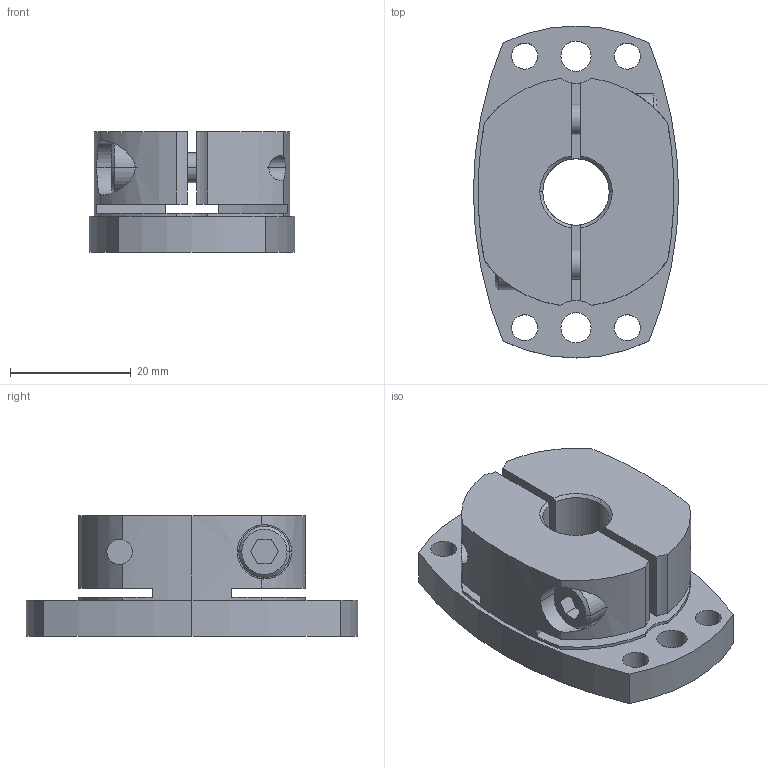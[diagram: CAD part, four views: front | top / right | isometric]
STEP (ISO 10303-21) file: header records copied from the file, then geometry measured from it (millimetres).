
FILE_DESCRIPTION((''),'2;1');
FILE_NAME('SHDB-55B-11.stp','2026-01-28T07:41:06',(''),(''),'AutoCAD STEP 2000i','AutoCAD 2000i',', , ');
FILE_SCHEMA(('CONFIG_CONTROL_DESIGN'));
Length unit declared in the file: millimetre
Products named in the file (2): SHDB-55B-10; 忣兜1
Assembly tree (1 placements, depth 2):
  SHDB-55B-10
    忣兜1
Bounding box: 34 x 55 x 20 mm (x, y, z)
Volume: 19843.2 mm3; surface area: 9230.5 mm2
Topology: 1 solids, 1 shells, 102 faces, 280 edges, 184 vertices
Faces by surface type: cylinder 58, plane 34, cone 10
Entity records: 3683 total; most frequent: CARTESIAN_POINT 856, DIRECTION 602, ORIENTED_EDGE 560, EDGE_CURVE 280, AXIS2_PLACEMENT_3D 238, VERTEX_POINT 184, CIRCLE 134, VECTOR 126
